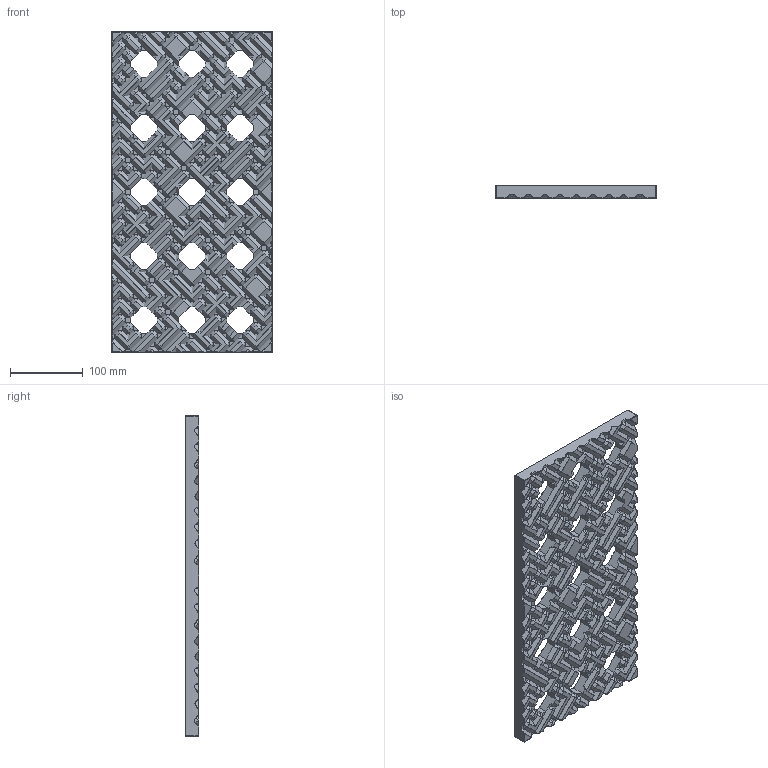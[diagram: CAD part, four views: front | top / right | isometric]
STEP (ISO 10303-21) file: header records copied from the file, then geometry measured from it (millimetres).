
FILE_DESCRIPTION(/* description */ (''),/* implementation_level */ '2;1');
FILE_NAME(/* name */ 'CR4401~2',/* time_stamp */ '2025-06-18T11:44:51+02:00',/* author */ (''),/* organization */ (''),/* preprocessor_version */ 'ST-DEVELOPER v15',/* originating_system */ '',/* authorisation */ '');
FILE_SCHEMA (('AUTOMOTIVE_DESIGN'));
Products named in the file (1): Document
Bounding box: 220 x 18 x 440 mm (x, y, z)
Volume: 1286009.6 mm3; surface area: 234622 mm2
Topology: 1 solids, 1 shells, 3090 faces, 7762 edges, 4573 vertices
Faces by surface type: plane 1747, bspline 1343
Entity records: 108928 total; most frequent: CARTESIAN_POINT 61194, ORIENTED_EDGE 15372, EDGE_CURVE 7686, B_SPLINE_CURVE_WITH_KNOTS 5548, VERTEX_POINT 4573, EDGE_LOOP 3095, ADVANCED_FACE 3090, FACE_OUTER_BOUND 3090
